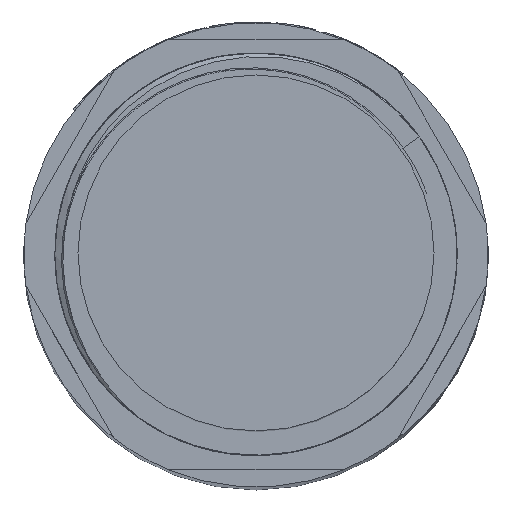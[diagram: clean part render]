
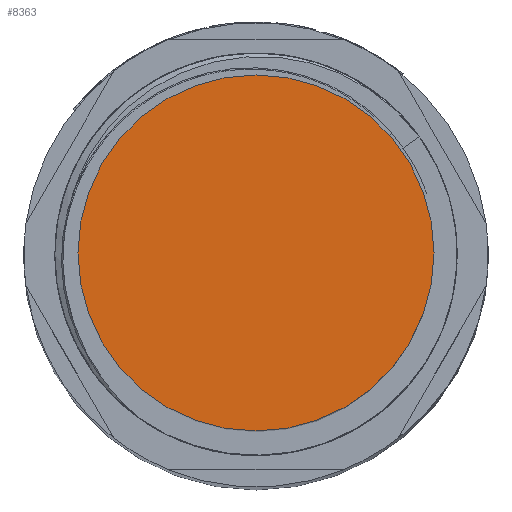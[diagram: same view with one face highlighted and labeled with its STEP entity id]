
A CAD part, top view. The second image highlights one B-rep face of the part: STEP entity #8363.
In plain terms, the highlighted planar face has unit normal (0, 0, 1).
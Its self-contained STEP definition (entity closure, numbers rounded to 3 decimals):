
#2166=CARTESIAN_POINT('',(0.,0.,124.25));
#2167=DIRECTION('',(0.,0.,1.));
#2168=DIRECTION('',(1.,0.,0.));
#2169=AXIS2_PLACEMENT_3D('',#2166,#2167,#2168);
#2171=CARTESIAN_POINT('',(0.,0.,124.25));
#2172=DIRECTION('',(0.,0.,1.));
#2173=DIRECTION('',(-1.,0.,0.));
#2174=AXIS2_PLACEMENT_3D('',#2171,#2172,#2173);
#6156=CARTESIAN_POINT('',(11.5,0.,124.25));
#6157=CARTESIAN_POINT('',(-11.5,0.,124.25));
#6158=VERTEX_POINT('',#6156);
#6159=VERTEX_POINT('',#6157);
#8354=CARTESIAN_POINT('',(0.,0.,124.25));
#8355=DIRECTION('',(0.,0.,1.));
#8356=DIRECTION('',(1.,0.,0.));
#8357=AXIS2_PLACEMENT_3D('',#8354,#8355,#8356);
#8358=PLANE('',#8357);
#8359=ORIENTED_EDGE('',*,*,#8334,.F.);
#8360=ORIENTED_EDGE('',*,*,#8348,.F.);
#8361=EDGE_LOOP('',(#8359,#8360));
#8362=FACE_OUTER_BOUND('',#8361,.F.);
#8363=ADVANCED_FACE('',(#8362),#8358,.T.);
#2170=CIRCLE('',#2169,11.5);
#2175=CIRCLE('',#2174,11.5);
#8334=EDGE_CURVE('',#6158,#6159,#2170,.T.);
#8348=EDGE_CURVE('',#6159,#6158,#2175,.T.);
